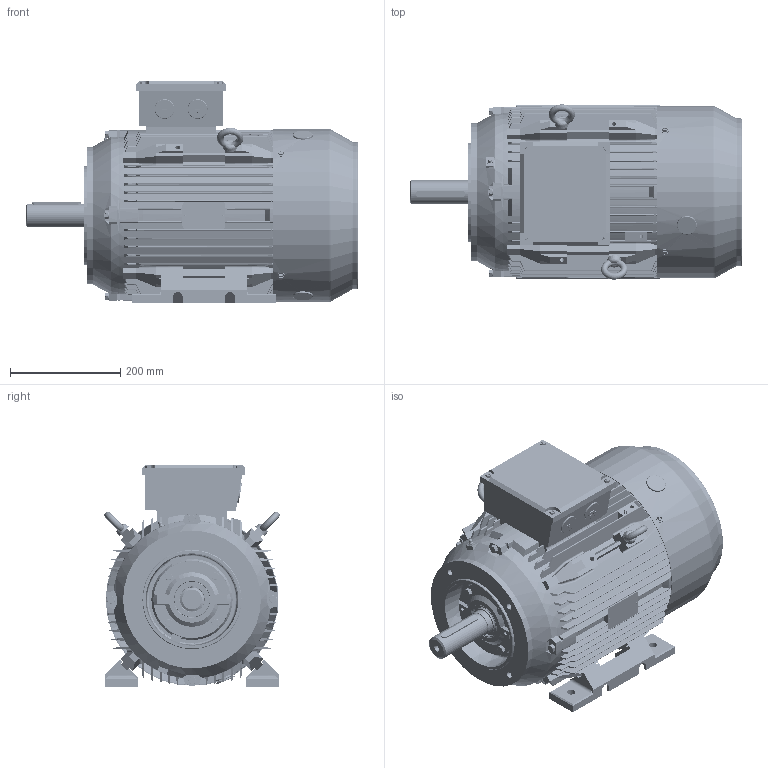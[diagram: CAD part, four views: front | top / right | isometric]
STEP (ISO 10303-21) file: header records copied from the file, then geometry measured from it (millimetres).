
FILE_DESCRIPTION (( 'STEP AP214' ), '1' );
FILE_NAME ('BCT3150.16F234.11.STEP', '2020-04-23T08:18:38', ( '' ), ( '' ), 'SwSTEP 2.0', 'SolidWorks 2019', '' );
FILE_SCHEMA (( 'AUTOMOTIVE_DESIGN' ));
Length unit declared in the file: millimetre
Products named in the file (1): BCT3150.16F234.11
Bounding box: 602.5 x 318.13 x 402.74 mm (x, y, z)
Volume: 8627309.5 mm3; surface area: 2743087.3 mm2
Topology: 53 solids, 54 shells, 6868 faces, 19643 edges, 12828 vertices
Faces by surface type: plane 3283, cylinder 2558, cone 437, torus 361, bspline 125, sphere 104
Entity records: 266758 total; most frequent: CARTESIAN_POINT 85393, ORIENTED_EDGE 38858, DIRECTION 36764, EDGE_CURVE 19429, AXIS2_PLACEMENT_3D 12909, VERTEX_POINT 12776, LINE 10946, VECTOR 10946
